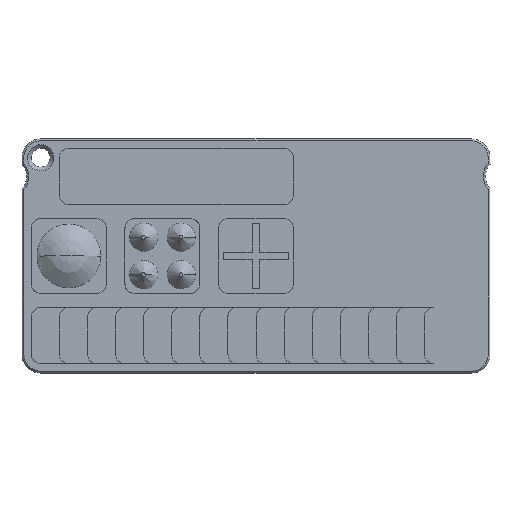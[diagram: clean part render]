
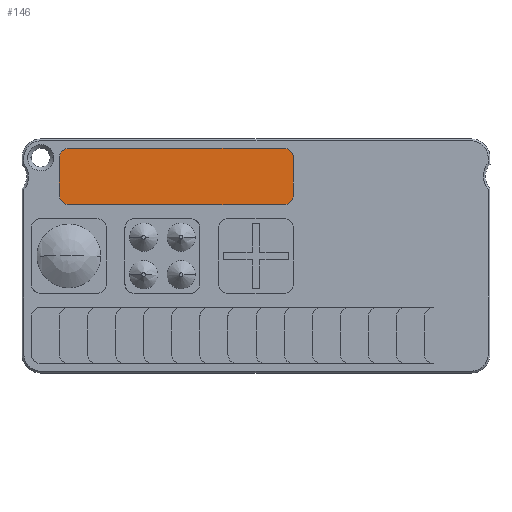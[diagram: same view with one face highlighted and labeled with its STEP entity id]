
A CAD part, top view. The second image highlights one B-rep face of the part: STEP entity #146.
In plain terms, the highlighted planar face has unit normal (0, 0, 1).
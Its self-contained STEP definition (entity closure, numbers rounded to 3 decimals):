
#146=ADVANCED_FACE('',(#331),#2909,.T.);
#331=FACE_OUTER_BOUND('',#522,.T.);
#522=EDGE_LOOP('',(#1102,#1103,#1104,#1105,#1106,#1107,#1108,#1109));
#1102=ORIENTED_EDGE('',*,*,#1840,.F.);
#1103=ORIENTED_EDGE('',*,*,#1838,.F.);
#1104=ORIENTED_EDGE('',*,*,#1836,.F.);
#1105=ORIENTED_EDGE('',*,*,#1833,.F.);
#1106=ORIENTED_EDGE('',*,*,#1831,.F.);
#1107=ORIENTED_EDGE('',*,*,#1828,.F.);
#1108=ORIENTED_EDGE('',*,*,#1826,.F.);
#1109=ORIENTED_EDGE('',*,*,#1822,.F.);
#1822=EDGE_CURVE('',#2669,#2668,#2396,.T.);
#1826=EDGE_CURVE('',#2668,#2670,#2400,.T.);
#1828=EDGE_CURVE('',#2670,#2671,#2402,.T.);
#1831=EDGE_CURVE('',#2671,#2672,#2405,.T.);
#1833=EDGE_CURVE('',#2672,#2673,#2407,.T.);
#1836=EDGE_CURVE('',#2673,#2674,#2410,.T.);
#1838=EDGE_CURVE('',#2674,#2675,#2412,.T.);
#1840=EDGE_CURVE('',#2675,#2669,#2414,.T.);
#2396=(
BOUNDED_CURVE()
B_SPLINE_CURVE(2,(#4761,#4762,#4763),.UNSPECIFIED.,.F.,.F.)
B_SPLINE_CURVE_WITH_KNOTS((3,3),(-273.133,-226.133),
 .UNSPECIFIED.)
CURVE()
GEOMETRIC_REPRESENTATION_ITEM()
RATIONAL_B_SPLINE_CURVE((1.,1.,1.))
REPRESENTATION_ITEM('')
);
#2400=(
BOUNDED_CURVE()
B_SPLINE_CURVE(2,(#4771,#4772,#4773),.UNSPECIFIED.,.F.,.F.)
B_SPLINE_CURVE_WITH_KNOTS((3,3),(-226.133,-219.85),
 .UNSPECIFIED.)
CURVE()
GEOMETRIC_REPRESENTATION_ITEM()
RATIONAL_B_SPLINE_CURVE((1.,0.707,1.))
REPRESENTATION_ITEM('')
);
#2402=(
BOUNDED_CURVE()
B_SPLINE_CURVE(2,(#4776,#4777,#4778),.UNSPECIFIED.,.F.,.F.)
B_SPLINE_CURVE_WITH_KNOTS((3,3),(-219.85,-142.85),
 .UNSPECIFIED.)
CURVE()
GEOMETRIC_REPRESENTATION_ITEM()
RATIONAL_B_SPLINE_CURVE((1.,1.,1.))
REPRESENTATION_ITEM('')
);
#2405=(
BOUNDED_CURVE()
B_SPLINE_CURVE(2,(#4784,#4785,#4786),.UNSPECIFIED.,.F.,.F.)
B_SPLINE_CURVE_WITH_KNOTS((3,3),(-142.85,-136.566),
 .UNSPECIFIED.)
CURVE()
GEOMETRIC_REPRESENTATION_ITEM()
RATIONAL_B_SPLINE_CURVE((1.,0.707,1.))
REPRESENTATION_ITEM('')
);
#2407=(
BOUNDED_CURVE()
B_SPLINE_CURVE(2,(#4789,#4790,#4791),.UNSPECIFIED.,.F.,.F.)
B_SPLINE_CURVE_WITH_KNOTS((3,3),(-136.566,-89.566),
 .UNSPECIFIED.)
CURVE()
GEOMETRIC_REPRESENTATION_ITEM()
RATIONAL_B_SPLINE_CURVE((1.,1.,1.))
REPRESENTATION_ITEM('')
);
#2410=(
BOUNDED_CURVE()
B_SPLINE_CURVE(2,(#4797,#4798,#4799),.UNSPECIFIED.,.F.,.F.)
B_SPLINE_CURVE_WITH_KNOTS((3,3),(-89.566,-83.283),
 .UNSPECIFIED.)
CURVE()
GEOMETRIC_REPRESENTATION_ITEM()
RATIONAL_B_SPLINE_CURVE((1.,0.707,1.))
REPRESENTATION_ITEM('')
);
#2412=(
BOUNDED_CURVE()
B_SPLINE_CURVE(2,(#4802,#4803,#4804),.UNSPECIFIED.,.F.,.F.)
B_SPLINE_CURVE_WITH_KNOTS((3,3),(-83.283,-6.283),
 .UNSPECIFIED.)
CURVE()
GEOMETRIC_REPRESENTATION_ITEM()
RATIONAL_B_SPLINE_CURVE((1.,1.,1.))
REPRESENTATION_ITEM('')
);
#2414=(
BOUNDED_CURVE()
B_SPLINE_CURVE(2,(#4808,#4809,#4810),.UNSPECIFIED.,.F.,.F.)
B_SPLINE_CURVE_WITH_KNOTS((3,3),(-6.283,0.),.UNSPECIFIED.)
CURVE()
GEOMETRIC_REPRESENTATION_ITEM()
RATIONAL_B_SPLINE_CURVE((1.,0.707,1.))
REPRESENTATION_ITEM('')
);
#2668=VERTEX_POINT('',#3913);
#2669=VERTEX_POINT('',#3914);
#2670=VERTEX_POINT('',#3915);
#2671=VERTEX_POINT('',#3916);
#2672=VERTEX_POINT('',#3917);
#2673=VERTEX_POINT('',#3918);
#2674=VERTEX_POINT('',#3919);
#2675=VERTEX_POINT('',#3920);
#2909=PLANE('',#3134);
#3134=AXIS2_PLACEMENT_3D('',#3505,#3292,$);
#3292=DIRECTION('',(0.,0.,1.));
#3505=CARTESIAN_POINT('',(14.25,9.5,2.2));
#3913=CARTESIAN_POINT('',(-42.,21.,2.2));
#3914=CARTESIAN_POINT('',(-42.,13.,2.2));
#3915=CARTESIAN_POINT('',(-40.,23.,2.2));
#3916=CARTESIAN_POINT('',(6.,23.,2.2));
#3917=CARTESIAN_POINT('',(8.,21.,2.2));
#3918=CARTESIAN_POINT('',(8.,13.,2.2));
#3919=CARTESIAN_POINT('',(6.,11.,2.2));
#3920=CARTESIAN_POINT('',(-40.,11.,2.2));
#4761=CARTESIAN_POINT('',(-42.,13.,2.2));
#4762=CARTESIAN_POINT('',(-42.,17.,2.2));
#4763=CARTESIAN_POINT('',(-42.,21.,2.2));
#4771=CARTESIAN_POINT('',(-42.,21.,2.2));
#4772=CARTESIAN_POINT('',(-42.,23.,2.2));
#4773=CARTESIAN_POINT('',(-40.,23.,2.2));
#4776=CARTESIAN_POINT('',(-40.,23.,2.2));
#4777=CARTESIAN_POINT('',(-17.,23.,2.2));
#4778=CARTESIAN_POINT('',(6.,23.,2.2));
#4784=CARTESIAN_POINT('',(6.,23.,2.2));
#4785=CARTESIAN_POINT('',(8.,23.,2.2));
#4786=CARTESIAN_POINT('',(8.,21.,2.2));
#4789=CARTESIAN_POINT('',(8.,21.,2.2));
#4790=CARTESIAN_POINT('',(8.,17.,2.2));
#4791=CARTESIAN_POINT('',(8.,13.,2.2));
#4797=CARTESIAN_POINT('',(8.,13.,2.2));
#4798=CARTESIAN_POINT('',(8.,11.,2.2));
#4799=CARTESIAN_POINT('',(6.,11.,2.2));
#4802=CARTESIAN_POINT('',(6.,11.,2.2));
#4803=CARTESIAN_POINT('',(-17.,11.,2.2));
#4804=CARTESIAN_POINT('',(-40.,11.,2.2));
#4808=CARTESIAN_POINT('',(-40.,11.,2.2));
#4809=CARTESIAN_POINT('',(-42.,11.,2.2));
#4810=CARTESIAN_POINT('',(-42.,13.,2.2));
